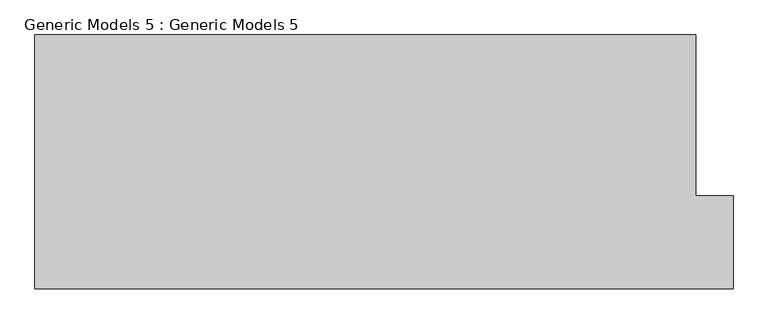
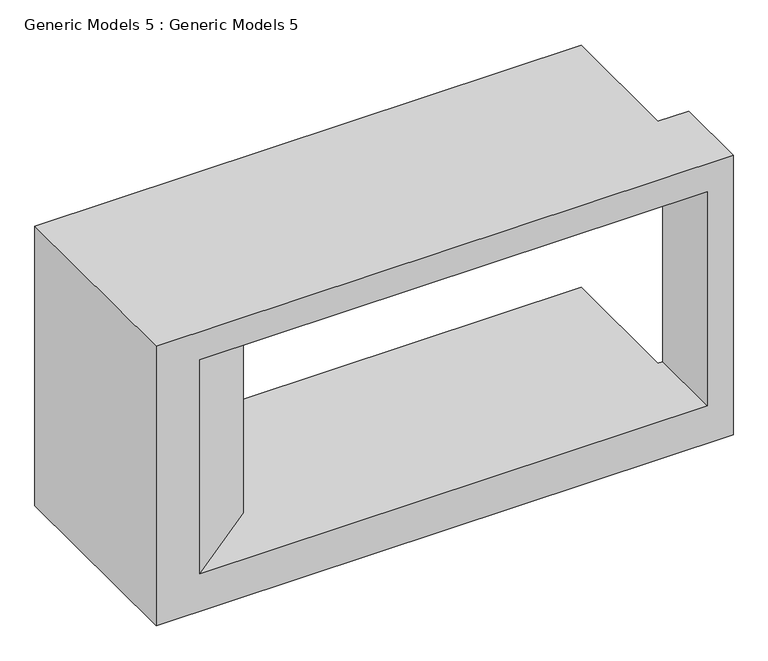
"""IFC4 building model written with IfcOpenShell, lengths in millimetres: proxy geometry, Generic Models 5 : Generic Models 5."""

from ifc_helpers import new_model, si_unit, origin, place, context, project, spatial, faceted_brep, source, transform, mapped, element, save


def generic_models_5_generic_models_5_601947af(model_context):
    return source(origin(), model_context, "Body", "Brep", [
        faceted_brep([(-3404.4048434, -4593.884564, 9000.0), (-9260.1539512, -4593.884564, 9000.0), (-9260.1539512, -4593.884564, 6000.0), (-3404.4048434, -4593.884564, 6000.0), (-8818.5171482, -4593.884564, 8700.0), (-3668.5171482, -4593.884564, 8700.0), (-3668.5171482, -4593.884564, 6403.5380954), (-8818.5171482, -4593.884564, 6403.5380954), (-9260.1539512, -2464.8895121, 6000.0), (-9260.1539512, -2464.8895121, 9000.0), (-3718.5171482, -2464.8895121, 9000.0), (-3718.5171482, -2464.8895121, 8700.0), (-8018.5171482, -2464.8895121, 8700.0), (-8018.5171482, -2464.8895121, 6403.5380954), (-3718.5171482, -2464.8895121, 6403.5380954), (-3718.5171482, -2464.8895121, 6000.0), (-3404.4048434, -3813.5680576, 9000.0), (-3718.5171482, -3813.5680576, 9000.0), (-3718.5171482, -3813.5680576, 6000.0), (-3404.4048434, -3813.5680576, 6000.0), (-8018.5171482, -3977.8385624, 8700.0), (-3718.5171482, -3813.5680576, 8700.0), (-3668.5171482, -3813.5680576, 8700.0), (-3668.5171482, -3813.5680576, 6403.5380954), (-8018.5171482, -3977.8385624, 6403.5380954), (-3718.5171482, -3813.5680576, 6403.5380954)], [[[0, 1, 2, 3], [4, 5, 6, 7]], [[8, 9, 10, 11, 12, 13, 14, 15]], [[1, 0, 16, 17, 10, 9]], [[2, 1, 9, 8]], [[3, 2, 8, 15, 18, 19]], [[0, 3, 19, 16]], [[4, 20, 12, 11, 21, 22, 5]], [[6, 5, 22, 23]], [[24, 7, 6, 23, 25, 14, 13]], [[20, 4, 7, 24]], [[24, 13, 12, 20]], [[21, 17, 16, 19, 18, 25, 23, 22]], [[17, 21, 11, 10]], [[25, 18, 15, 14]]]),
    ])


if __name__ == "__main__":
    model = new_model("IFC4")
    model_context = context("Model", 3, world=origin())
    ifc_project = project(units=[si_unit("LENGTHUNIT", "METRE", prefix="MILLI")], contexts=[model_context])
    site = spatial("IfcSite", under=ifc_project)
    building = spatial("IfcBuilding", under=site)
    placement = place(None, origin())
    generic_models_5_generic_models_5_shape = generic_models_5_generic_models_5_601947af(model_context)
    element("IfcBuildingElementProxy", 1, Name="Generic Models 5 : Generic Models 5", ObjectType="Generic Models 5 : Generic Models 5", at=placement, inside=building, context=model_context, shape_type="MappedRepresentation", body=[
        mapped(generic_models_5_generic_models_5_shape, transform((0.0, 0.0, 0.0), x_axis=(1.0, 0.0, 0.0), y_axis=(0.0, 1.0, 0.0), z_axis=(0.0, 0.0, 1.0))),
    ])
    save(model, "model.ifc")
